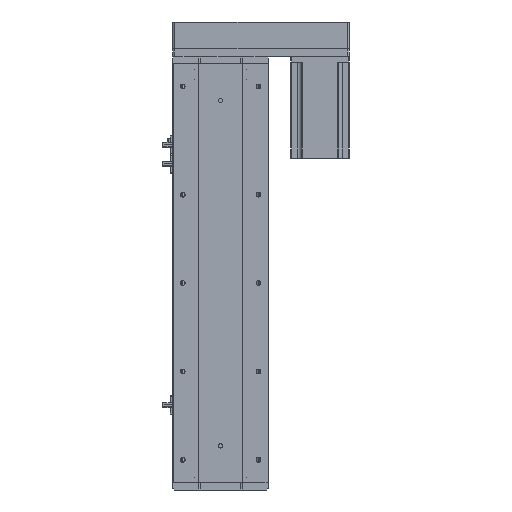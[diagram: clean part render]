
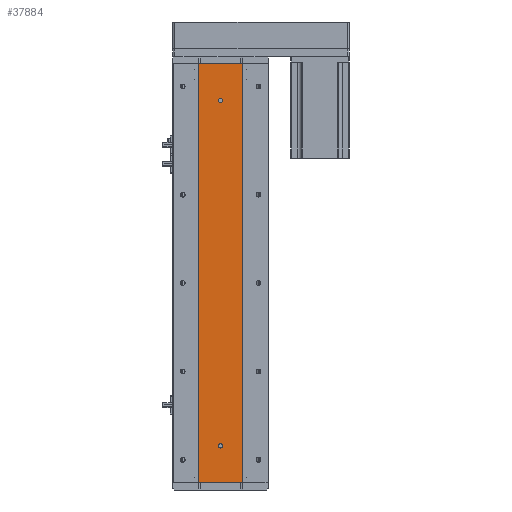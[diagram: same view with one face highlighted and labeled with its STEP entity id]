
A CAD part, left-side view. The second image highlights one B-rep face of the part: STEP entity #37884.
In plain terms, the highlighted planar face has unit normal (-1, 0, 0).
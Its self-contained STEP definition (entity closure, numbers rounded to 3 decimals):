
#2278 = ORIENTED_EDGE ( 'NONE', *, *, #25772, .F. ) ;
#2512 = CARTESIAN_POINT ( 'NONE',  ( -24.994, 0., 47. ) ) ;
#3120 = FACE_BOUND ( 'NONE', #30459, .T. ) ;
#3224 = LINE ( 'NONE', #32221, #10640 ) ;
#3305 = DIRECTION ( 'NONE',  ( -1., 0., 0. ) ) ;
#3574 = CARTESIAN_POINT ( 'NONE',  ( -24.994, 0., 519. ) ) ;
#3705 = VECTOR ( 'NONE', #21310, 1000. ) ;
#4597 = CARTESIAN_POINT ( 'NONE',  ( -24.994, 0., 522. ) ) ;
#5020 = CARTESIAN_POINT ( 'NONE',  ( -24.994, 0., 50. ) ) ;
#5094 = EDGE_LOOP ( 'NONE', ( #2278, #19286 ) ) ;
#5439 = CARTESIAN_POINT ( 'NONE',  ( -24.994, -29.785, 569. ) ) ;
#5889 = CIRCLE ( 'NONE', #17496, 3. ) ;
#6806 = DIRECTION ( 'NONE',  ( 0., 0., 1. ) ) ;
#6826 = EDGE_CURVE ( 'NONE', #16296, #31015, #17244, .T. ) ;
#7412 = AXIS2_PLACEMENT_3D ( 'NONE', #22270, #3305, #25405 ) ;
#7555 = CARTESIAN_POINT ( 'NONE',  ( -24.994, 0., 516. ) ) ;
#7690 = CARTESIAN_POINT ( 'NONE',  ( -24.994, 29.785, 0. ) ) ;
#8234 = DIRECTION ( 'NONE',  ( 0., 0., 1. ) ) ;
#9012 = CARTESIAN_POINT ( 'NONE',  ( -24.994, 0., 519. ) ) ;
#10566 = VERTEX_POINT ( 'NONE', #21713 ) ;
#10640 = VECTOR ( 'NONE', #13315, 1000. ) ;
#11064 = VERTEX_POINT ( 'NONE', #4597 ) ;
#11134 = LINE ( 'NONE', #5439, #3705 ) ;
#11143 = VECTOR ( 'NONE', #22014, 1000. ) ;
#12176 = DIRECTION ( 'NONE',  ( 0., 0., 1. ) ) ;
#12646 = ORIENTED_EDGE ( 'NONE', *, *, #30656, .F. ) ;
#12830 = DIRECTION ( 'NONE',  ( 0., -1., 0. ) ) ;
#13315 = DIRECTION ( 'NONE',  ( 0., -1., 0. ) ) ;
#14280 = CARTESIAN_POINT ( 'NONE',  ( -24.994, 29.785, 569. ) ) ;
#15541 = CIRCLE ( 'NONE', #39601, 3. ) ;
#16296 = VERTEX_POINT ( 'NONE', #20895 ) ;
#17244 = CIRCLE ( 'NONE', #7412, 3. ) ;
#17439 = DIRECTION ( 'NONE',  ( 0., 0., -1. ) ) ;
#17496 = AXIS2_PLACEMENT_3D ( 'NONE', #3574, #25677, #6806 ) ;
#17750 = VERTEX_POINT ( 'NONE', #19677 ) ;
#18801 = ORIENTED_EDGE ( 'NONE', *, *, #6826, .F. ) ;
#18935 = FACE_OUTER_BOUND ( 'NONE', #40524, .T. ) ;
#19204 = VERTEX_POINT ( 'NONE', #36042 ) ;
#19286 = ORIENTED_EDGE ( 'NONE', *, *, #27450, .F. ) ;
#19516 = CIRCLE ( 'NONE', #40863, 3. ) ;
#19525 = LINE ( 'NONE', #34551, #11143 ) ;
#19677 = CARTESIAN_POINT ( 'NONE',  ( -24.994, -29.785, 569. ) ) ;
#20082 = VERTEX_POINT ( 'NONE', #7555 ) ;
#20609 = ORIENTED_EDGE ( 'NONE', *, *, #40537, .T. ) ;
#20895 = CARTESIAN_POINT ( 'NONE',  ( -24.994, 0., 53. ) ) ;
#21087 = AXIS2_PLACEMENT_3D ( 'NONE', #14280, #36377, #17439 ) ;
#21310 = DIRECTION ( 'NONE',  ( 0., 0., -1. ) ) ;
#21713 = CARTESIAN_POINT ( 'NONE',  ( -24.994, -29.785, 0. ) ) ;
#22014 = DIRECTION ( 'NONE',  ( 0., 0., -1. ) ) ;
#22270 = CARTESIAN_POINT ( 'NONE',  ( -24.994, 0., 50. ) ) ;
#25401 = CARTESIAN_POINT ( 'NONE',  ( -24.994, 29.785, 0. ) ) ;
#25405 = DIRECTION ( 'NONE',  ( 0., 0., 1. ) ) ;
#25677 = DIRECTION ( 'NONE',  ( -1., 0., 0. ) ) ;
#25772 = EDGE_CURVE ( 'NONE', #11064, #20082, #5889, .T. ) ;
#27117 = DIRECTION ( 'NONE',  ( -1., 0., 0. ) ) ;
#27181 = ORIENTED_EDGE ( 'NONE', *, *, #30854, .F. ) ;
#27258 = VERTEX_POINT ( 'NONE', #7690 ) ;
#27336 = FACE_BOUND ( 'NONE', #5094, .T. ) ;
#27406 = EDGE_CURVE ( 'NONE', #17750, #10566, #11134, .T. ) ;
#27450 = EDGE_CURVE ( 'NONE', #20082, #11064, #19516, .T. ) ;
#28221 = LINE ( 'NONE', #25401, #35640 ) ;
#29138 = ORIENTED_EDGE ( 'NONE', *, *, #27406, .F. ) ;
#29883 = PLANE ( 'NONE',  #21087 ) ;
#30459 = EDGE_LOOP ( 'NONE', ( #18801, #27181 ) ) ;
#30656 = EDGE_CURVE ( 'NONE', #19204, #17750, #3224, .T. ) ;
#30854 = EDGE_CURVE ( 'NONE', #31015, #16296, #15541, .T. ) ;
#31015 = VERTEX_POINT ( 'NONE', #2512 ) ;
#31102 = DIRECTION ( 'NONE',  ( -1., 0., 0. ) ) ;
#32170 = EDGE_CURVE ( 'NONE', #27258, #10566, #28221, .T. ) ;
#32221 = CARTESIAN_POINT ( 'NONE',  ( -24.994, 29.785, 569. ) ) ;
#34551 = CARTESIAN_POINT ( 'NONE',  ( -24.994, 29.785, 569. ) ) ;
#34786 = ORIENTED_EDGE ( 'NONE', *, *, #32170, .T. ) ;
#35640 = VECTOR ( 'NONE', #12830, 1000. ) ;
#36042 = CARTESIAN_POINT ( 'NONE',  ( -24.994, 29.785, 569. ) ) ;
#36377 = DIRECTION ( 'NONE',  ( 1., 0., 0. ) ) ;
#37884 = ADVANCED_FACE ( 'NONE', ( #27336, #3120, #18935 ), #29883, .F. ) ;
#39601 = AXIS2_PLACEMENT_3D ( 'NONE', #5020, #27117, #8234 ) ;
#40524 = EDGE_LOOP ( 'NONE', ( #34786, #29138, #12646, #20609 ) ) ;
#40537 = EDGE_CURVE ( 'NONE', #19204, #27258, #19525, .T. ) ;
#40863 = AXIS2_PLACEMENT_3D ( 'NONE', #9012, #31102, #12176 ) ;
